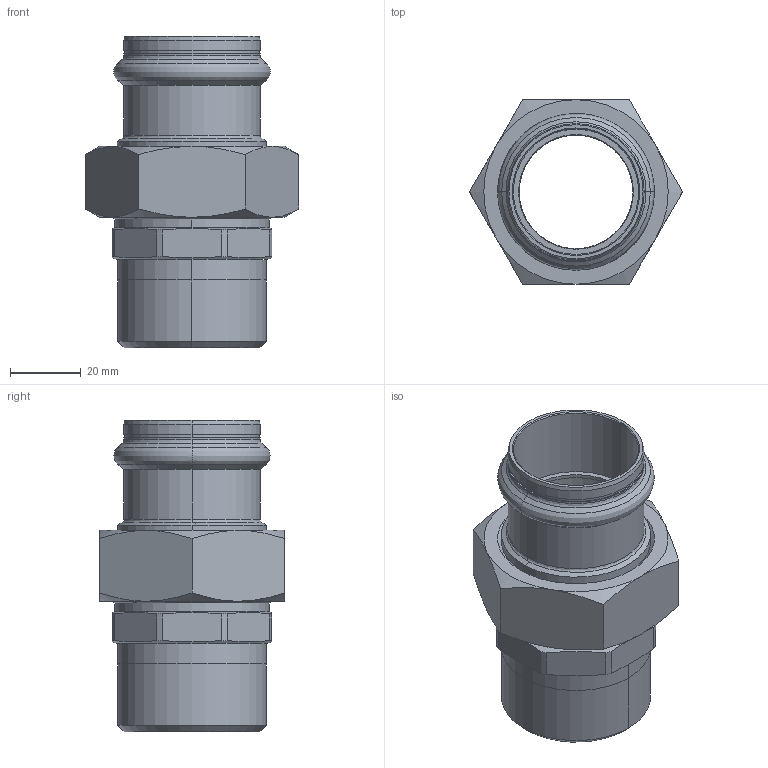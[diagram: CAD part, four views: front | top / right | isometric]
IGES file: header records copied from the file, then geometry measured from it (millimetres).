
Start section: Elysium IGES Interface
Global section: file name: C:\3d modellen sudo\C-Pr VP\SP8331GV\8331GVW35114.igs; native system: CoCreate Modeling 17.00A  17-Jun-2010; preprocessor: CoCreate IGES_3D V2.2; author: Unknown; organization: Unknown; date: 20130305.124906; units: millimetre
Bounding box: 60.04 x 52 x 87.8 mm (x, y, z)
Volume: 56930.2 mm3; surface area: 31643.8 mm2
Topology: 3 solids, 3 shells, 124 faces, 292 edges, 174 vertices
Faces by surface type: bspline 124
